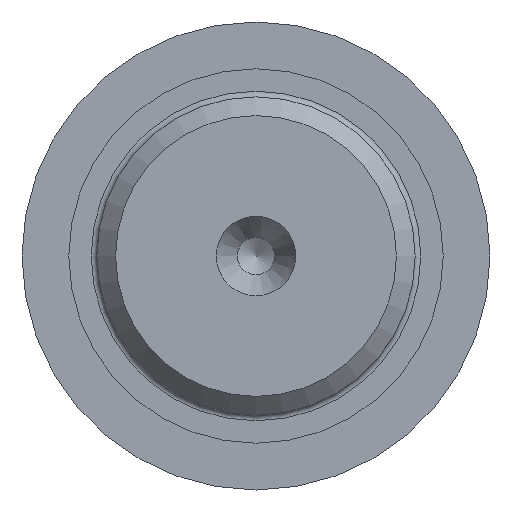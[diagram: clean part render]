
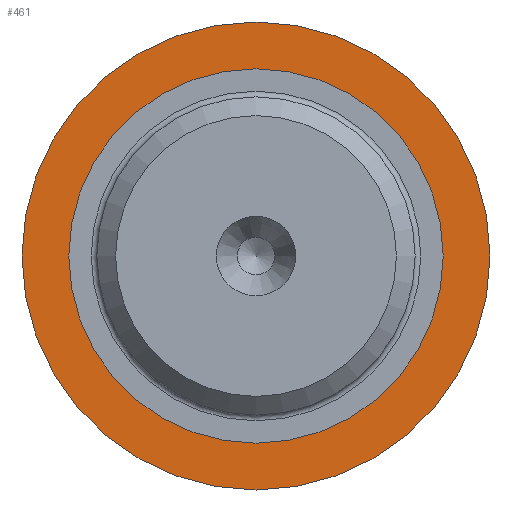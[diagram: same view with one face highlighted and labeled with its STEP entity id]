
A CAD part, left-side view. The second image highlights one B-rep face of the part: STEP entity #461.
In plain terms, the highlighted planar face has unit normal (-1, 0, 0).
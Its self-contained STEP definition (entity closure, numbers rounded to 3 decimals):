
#21=FACE_BOUND('',#98,.T.);
#40=PLANE('',#535);
#63=FACE_OUTER_BOUND('',#97,.T.);
#97=EDGE_LOOP('',(#380));
#98=EDGE_LOOP('',(#381));
#185=CIRCLE('',#534,10.);
#186=CIRCLE('',#536,12.5);
#229=VERTEX_POINT('',#844);
#230=VERTEX_POINT('',#848);
#283=EDGE_CURVE('',#229,#229,#185,.T.);
#285=EDGE_CURVE('',#230,#230,#186,.T.);
#380=ORIENTED_EDGE('',*,*,#285,.F.);
#381=ORIENTED_EDGE('',*,*,#283,.T.);
#461=ADVANCED_FACE('',(#63,#21),#40,.T.);
#534=AXIS2_PLACEMENT_3D('',#845,#657,#658);
#535=AXIS2_PLACEMENT_3D('',#847,#660,#661);
#536=AXIS2_PLACEMENT_3D('',#849,#662,#663);
#657=DIRECTION('center_axis',(1.,0.,0.));
#658=DIRECTION('ref_axis',(0.,0.,-1.));
#660=DIRECTION('center_axis',(-1.,0.,0.));
#661=DIRECTION('ref_axis',(0.,0.,1.));
#662=DIRECTION('center_axis',(1.,0.,0.));
#663=DIRECTION('ref_axis',(0.,0.,-1.));
#844=CARTESIAN_POINT('',(51.,-10.,0.));
#845=CARTESIAN_POINT('Origin',(51.,0.,0.));
#847=CARTESIAN_POINT('Origin',(51.,12.5,0.));
#848=CARTESIAN_POINT('',(51.,-12.5,0.));
#849=CARTESIAN_POINT('Origin',(51.,0.,0.));
